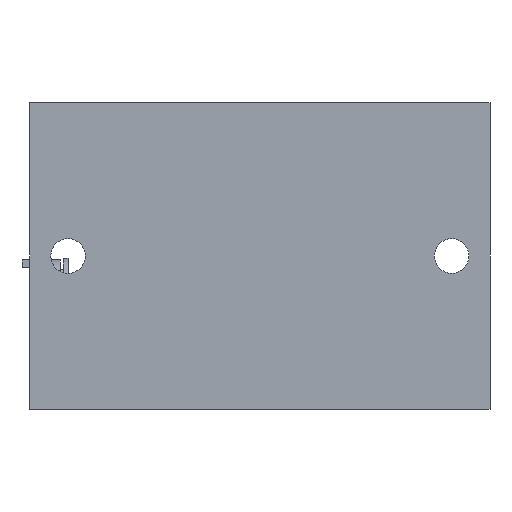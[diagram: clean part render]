
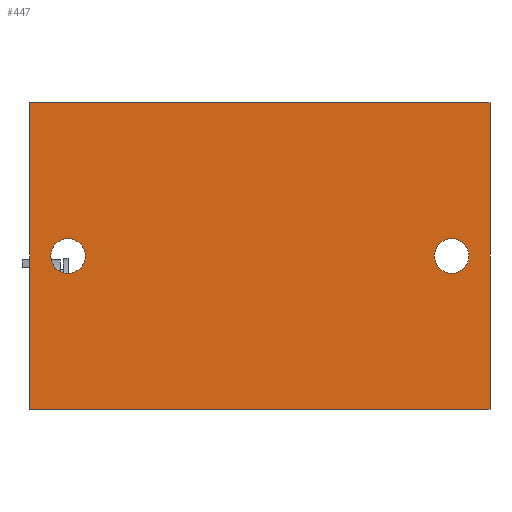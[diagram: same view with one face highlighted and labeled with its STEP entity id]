
A CAD part, front view. The second image highlights one B-rep face of the part: STEP entity #447.
In plain terms, the highlighted planar face has unit normal (0, -1, 0).
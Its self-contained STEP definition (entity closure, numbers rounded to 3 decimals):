
#334 = EDGE_CURVE ( 'NONE', #353, #335, #1704, .T. ) ;
#335 = VERTEX_POINT ( 'NONE', #1700 ) ;
#343 = EDGE_CURVE ( 'NONE', #335, #364, #1752, .T. ) ;
#352 = EDGE_CURVE ( 'NONE', #365, #353, #1738, .T. ) ;
#353 = VERTEX_POINT ( 'NONE', #1734 ) ;
#363 = EDGE_CURVE ( 'NONE', #364, #365, #1723, .T. ) ;
#364 = VERTEX_POINT ( 'NONE', #1782 ) ;
#365 = VERTEX_POINT ( 'NONE', #1781 ) ;
#372 = EDGE_CURVE ( 'NONE', #531, #616, #1769, .T. ) ;
#373 = ORIENTED_EDGE ( 'NONE', *, *, #615, .T. ) ;
#374 = EDGE_LOOP ( 'NONE', ( #375, #377 ) ) ;
#375 = ORIENTED_EDGE ( 'NONE', *, *, #376, .T. ) ;
#376 = EDGE_CURVE ( 'NONE', #559, #544, #1765, .T. ) ;
#377 = ORIENTED_EDGE ( 'NONE', *, *, #543, .T. ) ;
#378 = EDGE_LOOP ( 'NONE', ( #379, #380, #434, #435 ) ) ;
#379 = ORIENTED_EDGE ( 'NONE', *, *, #352, .F. ) ;
#380 = ORIENTED_EDGE ( 'NONE', *, *, #363, .F. ) ;
#393 = EDGE_LOOP ( 'NONE', ( #3865, #373 ) ) ;
#434 = ORIENTED_EDGE ( 'NONE', *, *, #343, .F. ) ;
#435 = ORIENTED_EDGE ( 'NONE', *, *, #334, .F. ) ;
#447 = ADVANCED_FACE ( 'NONE', ( #1858, #1918, #1917 ), #1916, .F. ) ;
#531 = VERTEX_POINT ( 'NONE', #2060 ) ;
#543 = EDGE_CURVE ( 'NONE', #544, #559, #2104, .T. ) ;
#544 = VERTEX_POINT ( 'NONE', #2095 ) ;
#559 = VERTEX_POINT ( 'NONE', #2124 ) ;
#615 = EDGE_CURVE ( 'NONE', #616, #531, #2216, .T. ) ;
#616 = VERTEX_POINT ( 'NONE', #2211 ) ;
#1700 = CARTESIAN_POINT ( 'NONE',  ( 30., 0., 20. ) ) ;
#1701 = DIRECTION ( 'NONE',  ( 1., 0., 0. ) ) ;
#1702 = VECTOR ( 'NONE', #1701, 1000. ) ;
#1703 = CARTESIAN_POINT ( 'NONE',  ( -30., 0., 20. ) ) ;
#1704 = LINE ( 'NONE', #1703, #1702 ) ;
#1722 = CARTESIAN_POINT ( 'NONE',  ( -30., 0., -20. ) ) ;
#1723 = LINE ( 'NONE', #1722, #1784 ) ;
#1734 = CARTESIAN_POINT ( 'NONE',  ( -30., 0., 20. ) ) ;
#1735 = DIRECTION ( 'NONE',  ( 0., 0., 1. ) ) ;
#1736 = VECTOR ( 'NONE', #1735, 1000. ) ;
#1737 = CARTESIAN_POINT ( 'NONE',  ( -30., 0., -20. ) ) ;
#1738 = LINE ( 'NONE', #1737, #1736 ) ;
#1749 = DIRECTION ( 'NONE',  ( 0., 0., -1. ) ) ;
#1750 = VECTOR ( 'NONE', #1749, 1000. ) ;
#1751 = CARTESIAN_POINT ( 'NONE',  ( 30., 0., -20. ) ) ;
#1752 = LINE ( 'NONE', #1751, #1750 ) ;
#1761 = DIRECTION ( 'NONE',  ( 0., 0., 1. ) ) ;
#1762 = DIRECTION ( 'NONE',  ( 0., 1., 0. ) ) ;
#1763 = CARTESIAN_POINT ( 'NONE',  ( 25., 0., 0. ) ) ;
#1764 = AXIS2_PLACEMENT_3D ( 'NONE', #1763, #1762, #1761 ) ;
#1765 = CIRCLE ( 'NONE', #1764, 2.25 ) ;
#1766 = DIRECTION ( 'NONE',  ( 0., 0., 1. ) ) ;
#1767 = DIRECTION ( 'NONE',  ( 0., 1., 0. ) ) ;
#1768 = AXIS2_PLACEMENT_3D ( 'NONE', #1774, #1767, #1766 ) ;
#1769 = CIRCLE ( 'NONE', #1768, 2.25 ) ;
#1774 = CARTESIAN_POINT ( 'NONE',  ( -25., 0., 0. ) ) ;
#1781 = CARTESIAN_POINT ( 'NONE',  ( -30., 0., -20. ) ) ;
#1782 = CARTESIAN_POINT ( 'NONE',  ( 30., 0., -20. ) ) ;
#1783 = DIRECTION ( 'NONE',  ( -1., 0., 0. ) ) ;
#1784 = VECTOR ( 'NONE', #1783, 1000. ) ;
#1858 = FACE_BOUND ( 'NONE', #393, .T. ) ;
#1912 = DIRECTION ( 'NONE',  ( 0., 0., 1. ) ) ;
#1913 = DIRECTION ( 'NONE',  ( 0., 1., 0. ) ) ;
#1914 = CARTESIAN_POINT ( 'NONE',  ( -30., 0., 20. ) ) ;
#1915 = AXIS2_PLACEMENT_3D ( 'NONE', #1914, #1913, #1912 ) ;
#1916 = PLANE ( 'NONE',  #1915 ) ;
#1917 = FACE_OUTER_BOUND ( 'NONE', #378, .T. ) ;
#1918 = FACE_BOUND ( 'NONE', #374, .T. ) ;
#2060 = CARTESIAN_POINT ( 'NONE',  ( -25., 0., 2.25 ) ) ;
#2095 = CARTESIAN_POINT ( 'NONE',  ( 25., 0., -2.25 ) ) ;
#2096 = DIRECTION ( 'NONE',  ( 0., 0., 1. ) ) ;
#2097 = DIRECTION ( 'NONE',  ( 0., 1., 0. ) ) ;
#2098 = CARTESIAN_POINT ( 'NONE',  ( 25., 0., 0. ) ) ;
#2099 = AXIS2_PLACEMENT_3D ( 'NONE', #2098, #2097, #2096 ) ;
#2104 = CIRCLE ( 'NONE', #2099, 2.25 ) ;
#2124 = CARTESIAN_POINT ( 'NONE',  ( 25., 0., 2.25 ) ) ;
#2211 = CARTESIAN_POINT ( 'NONE',  ( -25., 0., -2.25 ) ) ;
#2212 = DIRECTION ( 'NONE',  ( 0., 0., 1. ) ) ;
#2213 = DIRECTION ( 'NONE',  ( 0., 1., 0. ) ) ;
#2214 = CARTESIAN_POINT ( 'NONE',  ( -25., 0., 0. ) ) ;
#2215 = AXIS2_PLACEMENT_3D ( 'NONE', #2214, #2213, #2212 ) ;
#2216 = CIRCLE ( 'NONE', #2215, 2.25 ) ;
#3865 = ORIENTED_EDGE ( 'NONE', *, *, #372, .T. ) ;
